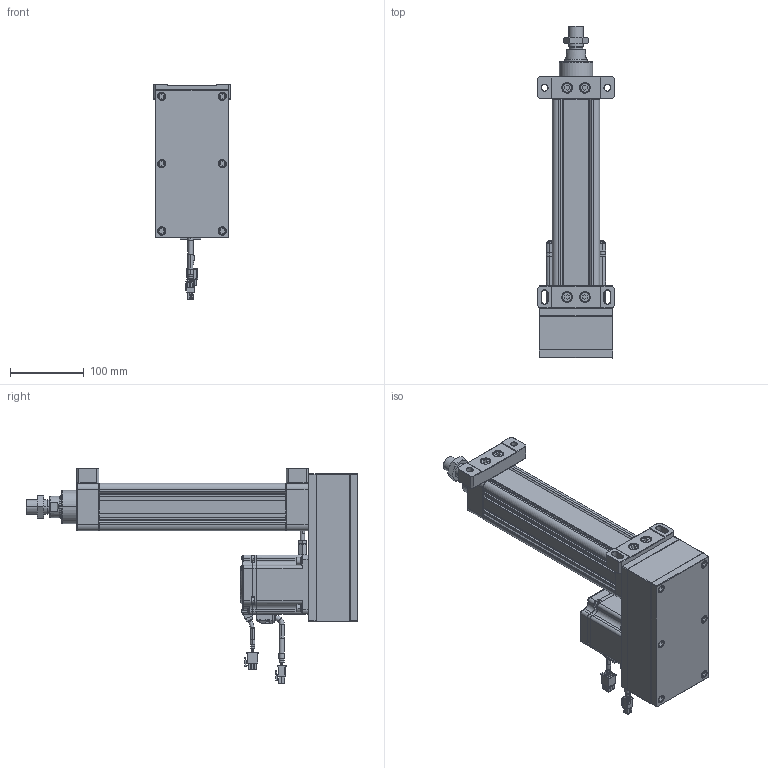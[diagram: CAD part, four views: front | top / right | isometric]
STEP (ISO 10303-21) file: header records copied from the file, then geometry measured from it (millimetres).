
FILE_DESCRIPTION((''),'2;1');
FILE_NAME('HE50-D-100-X1_ASM','2020-05-08T',('ASUS20200'),(''),'CREO PARAMETRIC BY PTC INC, 2014190','CREO PARAMETRIC BY PTC INC, 2014190','');
FILE_SCHEMA(('CONFIG_CONTROL_DESIGN'));
Products named in the file (32): HE50-D-P-001-X1; HE50-D-P-002-X1; HE50-D-P-003-X1; 6301ZZ; LGLM-M8-22; SLM-01; YZ-M6X1; HE50-P-010-X1-400W; _MHMF082L1A2; _CABLE_MOTOR_BOTTOM_05; _CABLE_MOTOR_TOP_05; _MOTOR_CONNECTOR_2; _CABLE_BRAKE_BOTTOM_05; _CABLE_BRAKE_TOP_05; _MHMF_CONNECTOR_9_PIN_A6; MHMF082L1A2M2_1_ASM; TD-6; M6X25; LM-M6X1; JX6X6X20; M6X25-DS; LM-M6-15; HE50-P-012-X1; HE50-P-013-X1; M6X60; HE50-P-015-X1; HE50-P-016-X1; M8X25; HE50-D-P-005-X1; HE50-D-P-004-X1; HE50-D-P-008-X1; HE50-D-100-X1_ASM
Assembly tree (56 placements, depth 3):
  HE50-D-100-X1_ASM
    HE50-D-P-001-X1
    HE50-D-P-002-X1
    HE50-D-P-003-X1
    6301ZZ
    LGLM-M8-22  x8
    SLM-01
    YZ-M6X1
    HE50-P-010-X1-400W
    MHMF082L1A2M2_1_ASM
      _MHMF082L1A2
      _CABLE_MOTOR_BOTTOM_05
      _CABLE_MOTOR_TOP_05
      _MOTOR_CONNECTOR_2
      _CABLE_BRAKE_BOTTOM_05
      _CABLE_BRAKE_TOP_05
      _MHMF_CONNECTOR_9_PIN_A6
    TD-6  x4
    M6X25  x4
    LM-M6X1  x5
    JX6X6X20
    M6X25-DS
    LM-M6-15
    HE50-P-012-X1
    HE50-P-013-X1
    M6X60  x6
    HE50-P-015-X1
    HE50-P-016-X1
    M8X25  x4
    HE50-D-P-005-X1
    HE50-D-P-004-X1
    HE50-D-P-008-X1
Bounding box: 105 x 448.5 x 290.65 mm (x, y, z)
Volume: 1960823.4 mm3; surface area: 533927.7 mm2
Topology: 55 solids, 89 shells, 3282 faces, 7865 edges, 4852 vertices
Faces by surface type: plane 1437, cylinder 871, cone 777, torus 154, sphere 42, bspline 1
Entity records: 79540 total; most frequent: CARTESIAN_POINT 14837, DIRECTION 14143, ORIENTED_EDGE 12732, EDGE_CURVE 6427, AXIS2_PLACEMENT_3D 5225, VERTEX_POINT 3993, VECTOR 3693, LINE 3693
